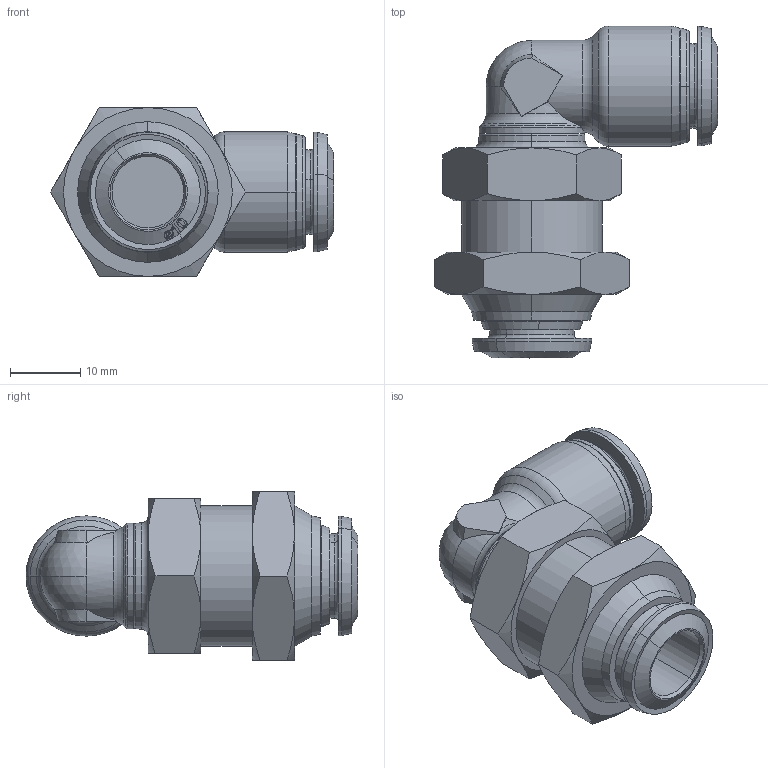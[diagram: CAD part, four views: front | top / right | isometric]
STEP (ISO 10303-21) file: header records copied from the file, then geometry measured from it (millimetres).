
FILE_DESCRIPTION (( 'STEP AP203' ), '1' );
FILE_NAME ('5006000006A.STEP', '2019-06-11T13:45:35', ( '' ), ( '' ), 'SwSTEP 2.0', 'SolidWorks 2016', '' );
FILE_SCHEMA (( 'CONFIG_CONTROL_DESIGN' ));
Length unit declared in the file: millimetre
Products named in the file (1): 5006000006A
Bounding box: 40.26 x 47.2 x 24 mm (x, y, z)
Volume: 14749.3 mm3; surface area: 5844.8 mm2
Topology: 1 solids, 1 shells, 241 faces, 571 edges, 357 vertices
Faces by surface type: bspline 80, cone 73, plane 43, cylinder 27, torus 16, sphere 2
Entity records: 14287 total; most frequent: CARTESIAN_POINT 9291, ORIENTED_EDGE 1142, DIRECTION 793, EDGE_CURVE 571, VERTEX_POINT 357, AXIS2_PLACEMENT_3D 312, EDGE_LOOP 266, FACE_OUTER_BOUND 241
